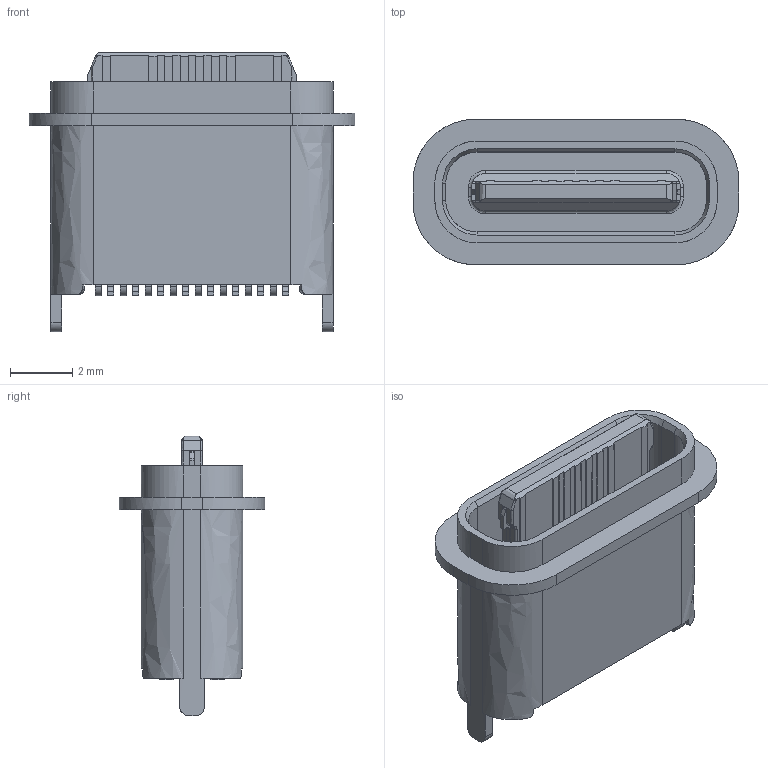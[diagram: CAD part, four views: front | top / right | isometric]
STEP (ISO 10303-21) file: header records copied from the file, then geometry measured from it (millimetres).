
FILE_DESCRIPTION (( 'STEP AP203' ), '1' );
FILE_NAME ('U5475-16PNW6.8LF.STEP', '2026-09-22T06:53:13', ( '' ), ( '' ), 'SwSTEP 2.0', 'SolidWorks 2024', '' );
FILE_SCHEMA (( 'CONFIG_CONTROL_DESIGN' ));
Length unit declared in the file: millimetre
Products named in the file (1): U5475-16PNW6.8LF
Bounding box: 10.44 x 4.66 x 8.95 mm (x, y, z)
Volume: 140 mm3; surface area: 388.7 mm2
Topology: 1 solids, 1 shells, 424 faces, 1162 edges, 760 vertices
Faces by surface type: bspline 424
Entity records: 13336 total; most frequent: CARTESIAN_POINT 6385, ORIENTED_EDGE 2324, EDGE_CURVE 1162, B_SPLINE_CURVE_WITH_KNOTS 1019, VERTEX_POINT 760, EDGE_LOOP 444, ADVANCED_FACE 424, FACE_OUTER_BOUND 424
